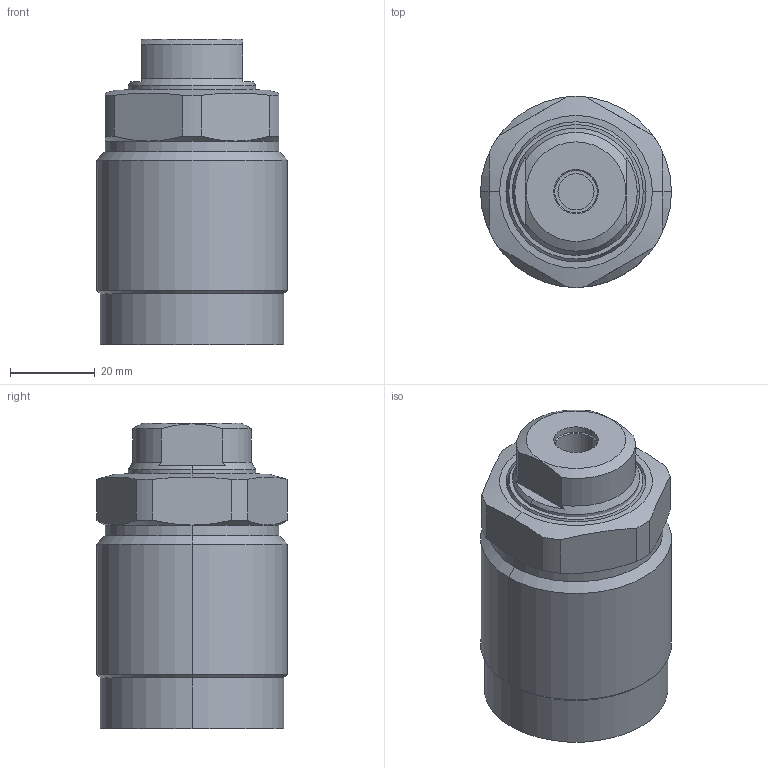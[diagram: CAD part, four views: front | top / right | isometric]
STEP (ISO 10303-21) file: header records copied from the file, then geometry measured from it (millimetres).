
FILE_DESCRIPTION((' '),'2;1');
FILE_NAME( 'TGP45-AM.x_t.stp', '2025-02-10T16:03:56', (' '), ('--- Datakit www.datakit.com---'), ' Datakit CrossCadWare V2024.1 Dec 21 2023', 'Mastercam 2025', ' ');
FILE_SCHEMA(('AUTOMOTIVE_DESIGN { 1 0 10303 214 1 1 1 1 }'));
Length unit declared in the file: millimetre
Products named in the file (1): TGP45-AM
Bounding box: 45 x 45 x 72 mm (x, y, z)
Volume: 106641.5 mm3; surface area: 16857.7 mm2
Topology: 2 solids, 2 shells, 78 faces, 182 edges, 115 vertices
Faces by surface type: cylinder 34, plane 22, cone 18, torus 4
Entity records: 2380 total; most frequent: CARTESIAN_POINT 542, DIRECTION 408, ORIENTED_EDGE 360, EDGE_CURVE 180, AXIS2_PLACEMENT_3D 173, VERTEX_POINT 115, CIRCLE 94, EDGE_LOOP 87
